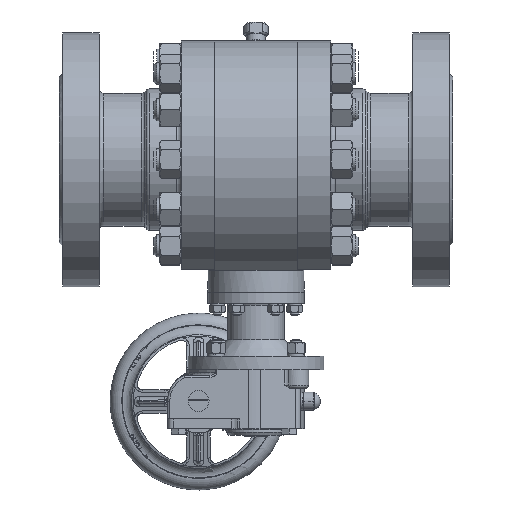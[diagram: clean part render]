
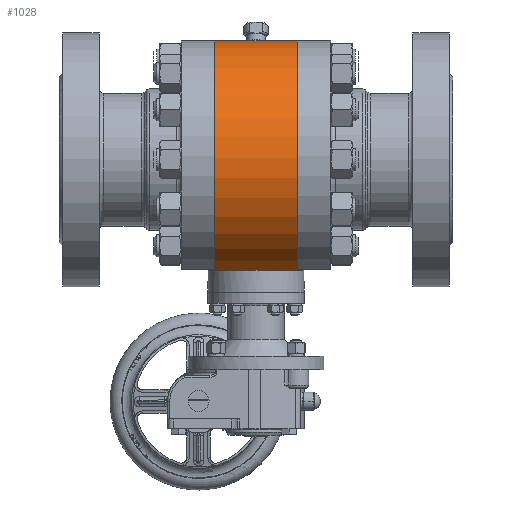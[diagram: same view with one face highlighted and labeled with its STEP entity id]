
A CAD part, top view. The second image highlights one B-rep face of the part: STEP entity #1028.
In plain terms, the highlighted cylindrical face has radius 107.5 mm (diameter 215 mm), a partial arc.
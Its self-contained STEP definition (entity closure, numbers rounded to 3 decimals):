
#1028=ADVANCED_FACE('',(#37704,#37706),#37708,.T.);
#37704=FACE_BOUND('',#37705,.T.);
#37705=EDGE_LOOP('',(#64205));
#37706=FACE_OUTER_BOUND('',#37707,.T.);
#37707=EDGE_LOOP('',(#64206,#64207,#64208,#64209,#64210,#64211,#64212,#64213));
#37708=CYLINDRICAL_SURFACE('',#37709,107.5);
#37709=AXIS2_PLACEMENT_3D('',#37710,#37711,#37712);
#37710=CARTESIAN_POINT('',(-37.5,0.,0.));
#37711=DIRECTION('',(1.,0.,0.));
#37712=DIRECTION('',(0.,1.,0.));
#64205=ORIENTED_EDGE('',*,*,#91105,.T.);
#64206=ORIENTED_EDGE('',*,*,#90933,.F.);
#64207=ORIENTED_EDGE('',*,*,#90932,.T.);
#64208=ORIENTED_EDGE('',*,*,#91104,.T.);
#64209=ORIENTED_EDGE('',*,*,#90941,.T.);
#64210=ORIENTED_EDGE('',*,*,#90940,.F.);
#64211=ORIENTED_EDGE('',*,*,#90939,.T.);
#64212=ORIENTED_EDGE('',*,*,#91106,.F.);
#64213=ORIENTED_EDGE('',*,*,#90934,.T.);
#90932=EDGE_CURVE('',#95835,#96186,#96188,.F.);
#90933=EDGE_CURVE('',#95835,#95840,#96189,.T.);
#90934=EDGE_CURVE('',#96190,#95840,#96191,.F.);
#90939=EDGE_CURVE('',#95846,#96197,#96199,.T.);
#90940=EDGE_CURVE('',#95846,#95848,#96200,.F.);
#90941=EDGE_CURVE('',#96201,#95848,#96202,.T.);
#91104=EDGE_CURVE('',#96186,#96201,#96480,.T.);
#91105=EDGE_CURVE('',#96481,#96481,#96482,.F.);
#91106=EDGE_CURVE('',#96190,#96197,#96483,.T.);
#95835=VERTEX_POINT('',#127626);
#95840=VERTEX_POINT('',#127639);
#95846=VERTEX_POINT('',#127654);
#95848=VERTEX_POINT('',#127659);
#96186=VERTEX_POINT('',#131069);
#96188=LINE('',#131075,#131076);
#96189=LINE('',#131078,#131079);
#96190=VERTEX_POINT('',#131081);
#96191=LINE('',#131082,#131083);
#96197=VERTEX_POINT('',#131098);
#96199=LINE('',#131104,#131105);
#96200=LINE('',#131107,#131108);
#96201=VERTEX_POINT('',#131110);
#96202=LINE('',#131111,#131112);
#96480=CIRCLE('',#133791,107.5);
#96481=VERTEX_POINT('',#133795);
#96482=B_SPLINE_CURVE_WITH_KNOTS('',3,
(#133796,#133797,#133798,#133799,#133800,#133801,#133802,#133803,#133804,#133805,
#133806,#133807,#133808,#133809,#133810,#133811,#133812,#133813,#133814,#133815,
#133816,#133817,#133818,#133819,#133820,#133821,#133822,#133823,#133824,#133825,
#133826,#133827,#133828,#133829,#133830,#133831,#133832,#133833,#133834,#133835,
#133836,#133837,#133838,#133839,#133840,#133841,#133842,#133843,#133844,#133845,
#133846,#133847,#133848,#133849,#133850,#133851,#133852,#133853,#133854),
.UNSPECIFIED.,.T.,.F.,
(4,1,1,1,1,1,1,1,1,1,1,1,1,1,1,1,1,1,1,1,1,1,1,1,1,1,1,1,1,1,1,1,1,1,1,1,1,1,1,1,
1,1,1,1,1,1,1,1,1,1,1,1,1,1,1,1,4),
(0.,0.019,0.039,0.058,0.077,
0.096,0.115,0.134,0.153,0.172,
0.191,0.21,0.227,0.244,0.26,
0.276,0.293,0.309,0.327,0.345,
0.364,0.383,0.403,0.422,0.44,
0.457,0.474,0.491,0.508,0.525,
0.542,0.561,0.58,0.599,0.617,
0.636,0.655,0.674,0.692,0.71,
0.727,0.744,0.761,0.778,0.796,
0.815,0.834,0.853,0.872,0.891,
0.91,0.929,0.947,0.963,0.977,
0.989,1.),
.UNSPECIFIED.);
#96483=CIRCLE('',#133855,107.5);
#127626=CARTESIAN_POINT('',(-18.33,-100.,-39.449));
#127639=CARTESIAN_POINT('',(18.33,-100.,-39.449));
#127654=CARTESIAN_POINT('',(18.33,-100.,39.449));
#127659=CARTESIAN_POINT('',(-18.33,-100.,39.449));
#131069=CARTESIAN_POINT('',(-37.3,-100.,-39.449));
#131075=CARTESIAN_POINT('',(-37.3,-100.,-39.449));
#131076=VECTOR('',#131077,1.);
#131077=DIRECTION('',(1.,0.,0.));
#131078=CARTESIAN_POINT('',(-18.33,-100.,-39.449));
#131079=VECTOR('',#131080,1.);
#131080=DIRECTION('',(1.,0.,0.));
#131081=CARTESIAN_POINT('',(37.3,-100.,-39.449));
#131082=CARTESIAN_POINT('',(18.33,-100.,-39.449));
#131083=VECTOR('',#131084,1.);
#131084=DIRECTION('',(1.,0.,0.));
#131098=CARTESIAN_POINT('',(37.3,-100.,39.449));
#131104=CARTESIAN_POINT('',(18.33,-100.,39.449));
#131105=VECTOR('',#131106,1.);
#131106=DIRECTION('',(1.,0.,0.));
#131107=CARTESIAN_POINT('',(-18.33,-100.,39.449));
#131108=VECTOR('',#131109,1.);
#131109=DIRECTION('',(1.,0.,0.));
#131110=CARTESIAN_POINT('',(-37.3,-100.,39.449));
#131111=CARTESIAN_POINT('',(-37.3,-100.,39.449));
#131112=VECTOR('',#131113,1.);
#131113=DIRECTION('',(1.,0.,0.));
#133791=AXIS2_PLACEMENT_3D('',#133792,#133793,#133794);
#133792=CARTESIAN_POINT('',(-37.3,0.,0.));
#133793=DIRECTION('',(1.,0.,0.));
#133794=DIRECTION('',(0.,-0.93,-0.367));
#133795=CARTESIAN_POINT('',(0.,106.368,-15.56));
#133796=CARTESIAN_POINT('',(0.,106.368,-15.56));
#133797=CARTESIAN_POINT('',(0.51,106.368,-15.56));
#133798=CARTESIAN_POINT('',(1.528,106.359,-15.622));
#133799=CARTESIAN_POINT('',(3.029,106.318,-15.899));
#133800=CARTESIAN_POINT('',(4.477,106.249,-16.353));
#133801=CARTESIAN_POINT('',(5.853,106.152,-16.974));
#133802=CARTESIAN_POINT('',(7.138,106.026,-17.748));
#133803=CARTESIAN_POINT('',(8.315,105.869,-18.664));
#133804=CARTESIAN_POINT('',(9.371,105.68,-19.706));
#133805=CARTESIAN_POINT('',(10.293,105.459,-20.86));
#133806=CARTESIAN_POINT('',(11.064,105.206,-22.104));
#133807=CARTESIAN_POINT('',(11.676,104.923,-23.412));
#133808=CARTESIAN_POINT('',(12.117,104.617,-24.743));
#133809=CARTESIAN_POINT('',(12.391,104.296,-26.062));
#133810=CARTESIAN_POINT('',(12.512,103.968,-27.34));
#133811=CARTESIAN_POINT('',(12.497,103.632,-28.586));
#133812=CARTESIAN_POINT('',(12.351,103.287,-29.811));
#133813=CARTESIAN_POINT('',(12.073,102.929,-31.023));
#133814=CARTESIAN_POINT('',(11.653,102.556,-32.233));
#133815=CARTESIAN_POINT('',(11.078,102.172,-33.431));
#133816=CARTESIAN_POINT('',(10.333,101.78,-34.606));
#133817=CARTESIAN_POINT('',(9.427,101.396,-35.714));
#133818=CARTESIAN_POINT('',(8.376,101.036,-36.72));
#133819=CARTESIAN_POINT('',(7.206,100.712,-37.598));
#133820=CARTESIAN_POINT('',(5.949,100.436,-38.327));
#133821=CARTESIAN_POINT('',(4.645,100.217,-38.897));
#133822=CARTESIAN_POINT('',(3.333,100.056,-39.308));
#133823=CARTESIAN_POINT('',(2.018,99.95,-39.577));
#133824=CARTESIAN_POINT('',(0.699,99.896,-39.712));
#133825=CARTESIAN_POINT('',(-0.627,99.895,-39.716));
#133826=CARTESIAN_POINT('',(-1.965,99.946,-39.586));
#133827=CARTESIAN_POINT('',(-3.316,100.053,-39.315));
#133828=CARTESIAN_POINT('',(-4.677,100.221,-38.887));
#133829=CARTESIAN_POINT('',(-6.009,100.448,-38.297));
#133830=CARTESIAN_POINT('',(-7.271,100.728,-37.554));
#133831=CARTESIAN_POINT('',(-8.429,101.052,-36.674));
#133832=CARTESIAN_POINT('',(-9.467,101.412,-35.67));
#133833=CARTESIAN_POINT('',(-10.369,101.797,-34.557));
#133834=CARTESIAN_POINT('',(-11.118,102.195,-33.362));
#133835=CARTESIAN_POINT('',(-11.702,102.593,-32.116));
#133836=CARTESIAN_POINT('',(-12.123,102.981,-30.852));
#133837=CARTESIAN_POINT('',(-12.392,103.355,-29.573));
#133838=CARTESIAN_POINT('',(-12.515,103.717,-28.279));
#133839=CARTESIAN_POINT('',(-12.493,104.064,-26.972));
#133840=CARTESIAN_POINT('',(-12.323,104.398,-25.649));
#133841=CARTESIAN_POINT('',(-11.995,104.717,-24.317));
#133842=CARTESIAN_POINT('',(-11.496,105.017,-22.982));
#133843=CARTESIAN_POINT('',(-10.827,105.293,-21.684));
#133844=CARTESIAN_POINT('',(-9.996,105.538,-20.457));
#133845=CARTESIAN_POINT('',(-9.023,105.749,-19.335));
#133846=CARTESIAN_POINT('',(-7.922,105.927,-18.333));
#133847=CARTESIAN_POINT('',(-6.708,106.073,-17.466));
#133848=CARTESIAN_POINT('',(-5.43,106.185,-16.764));
#133849=CARTESIAN_POINT('',(-4.145,106.267,-16.239));
#133850=CARTESIAN_POINT('',(-2.946,106.319,-15.892));
#133851=CARTESIAN_POINT('',(-1.858,106.35,-15.685));
#133852=CARTESIAN_POINT('',(-0.897,106.365,-15.581));
#133853=CARTESIAN_POINT('',(-0.287,106.368,-15.56));
#133854=CARTESIAN_POINT('',(0.,106.368,-15.56));
#133855=AXIS2_PLACEMENT_3D('',#133856,#133857,#133858);
#133856=CARTESIAN_POINT('',(37.3,0.,0.));
#133857=DIRECTION('',(1.,0.,0.));
#133858=DIRECTION('',(0.,-0.93,-0.367));
